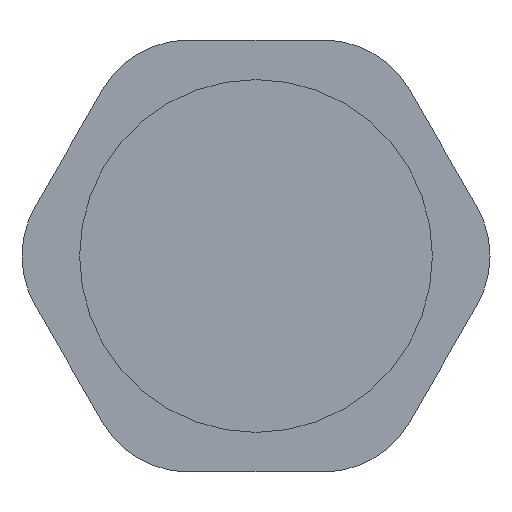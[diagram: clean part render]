
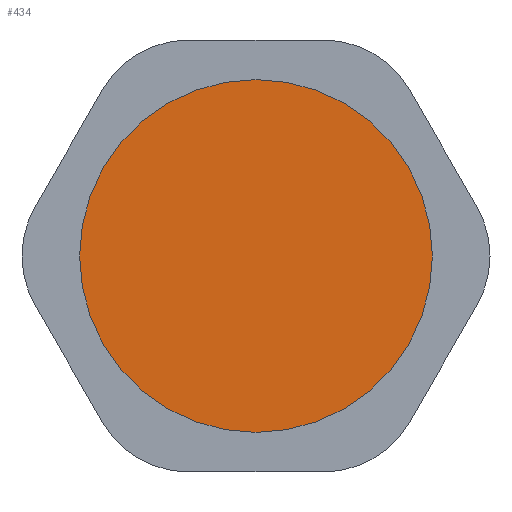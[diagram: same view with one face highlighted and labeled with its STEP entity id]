
A CAD part, front view. The second image highlights one B-rep face of the part: STEP entity #434.
In plain terms, the highlighted planar face has unit normal (0, -1, 0).
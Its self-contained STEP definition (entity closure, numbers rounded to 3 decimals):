
#52 = ORIENTED_EDGE ( 'NONE', *, *, #1082, .F. ) ;
#69 = EDGE_LOOP ( 'NONE', ( #105, #52 ) ) ;
#105 = ORIENTED_EDGE ( 'NONE', *, *, #957, .F. ) ;
#245 = CIRCLE ( 'NONE', #1063, 4.9 ) ;
#323 = FACE_OUTER_BOUND ( 'NONE', #69, .T. ) ;
#401 = CIRCLE ( 'NONE', #1050, 4.9 ) ;
#434 = ADVANCED_FACE ( 'NONE', ( #323 ), #771, .T. ) ;
#452 = DIRECTION ( 'NONE',  ( 0., 1., 0. ) ) ;
#590 = CARTESIAN_POINT ( 'NONE',  ( 0., 0., 0. ) ) ;
#591 = DIRECTION ( 'NONE',  ( 0., 1., 0. ) ) ;
#594 = DIRECTION ( 'NONE',  ( 0., 0., -1. ) ) ;
#660 = CARTESIAN_POINT ( 'NONE',  ( 0., 0., -4.9 ) ) ;
#686 = DIRECTION ( 'NONE',  ( 0., 0., -1. ) ) ;
#688 = CARTESIAN_POINT ( 'NONE',  ( 0., 0., 4.9 ) ) ;
#770 = CARTESIAN_POINT ( 'NONE',  ( 4.9, 0., 0. ) ) ;
#771 = PLANE ( 'NONE',  #1041 ) ;
#773 = DIRECTION ( 'NONE',  ( 0., -1., 0. ) ) ;
#774 = DIRECTION ( 'NONE',  ( 0., 0., 1. ) ) ;
#840 = CARTESIAN_POINT ( 'NONE',  ( 0., 0., 0. ) ) ;
#845 = VERTEX_POINT ( 'NONE', #660 ) ;
#880 = VERTEX_POINT ( 'NONE', #688 ) ;
#957 = EDGE_CURVE ( 'NONE', #845, #880, #245, .T. ) ;
#1041 = AXIS2_PLACEMENT_3D ( 'NONE', #770, #773, #774 ) ;
#1050 = AXIS2_PLACEMENT_3D ( 'NONE', #840, #452, #686 ) ;
#1063 = AXIS2_PLACEMENT_3D ( 'NONE', #590, #591, #594 ) ;
#1082 = EDGE_CURVE ( 'NONE', #880, #845, #401, .T. ) ;
